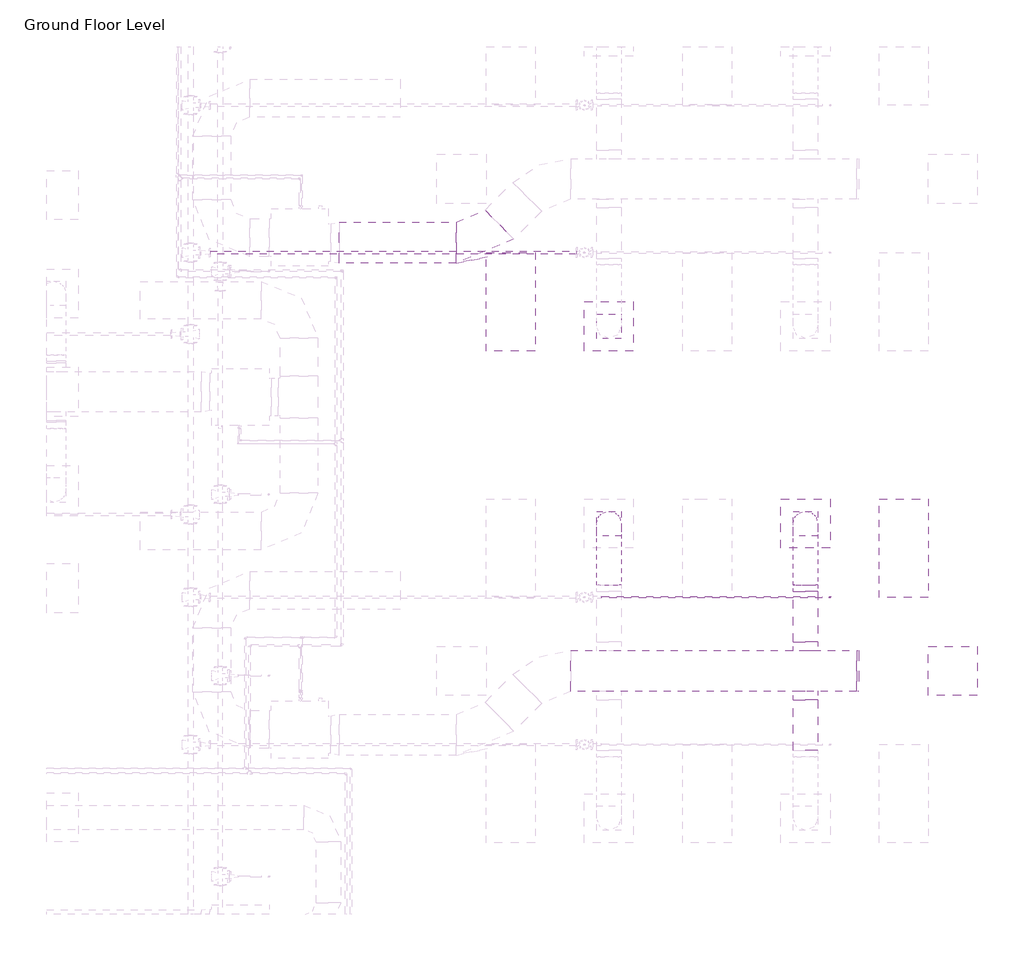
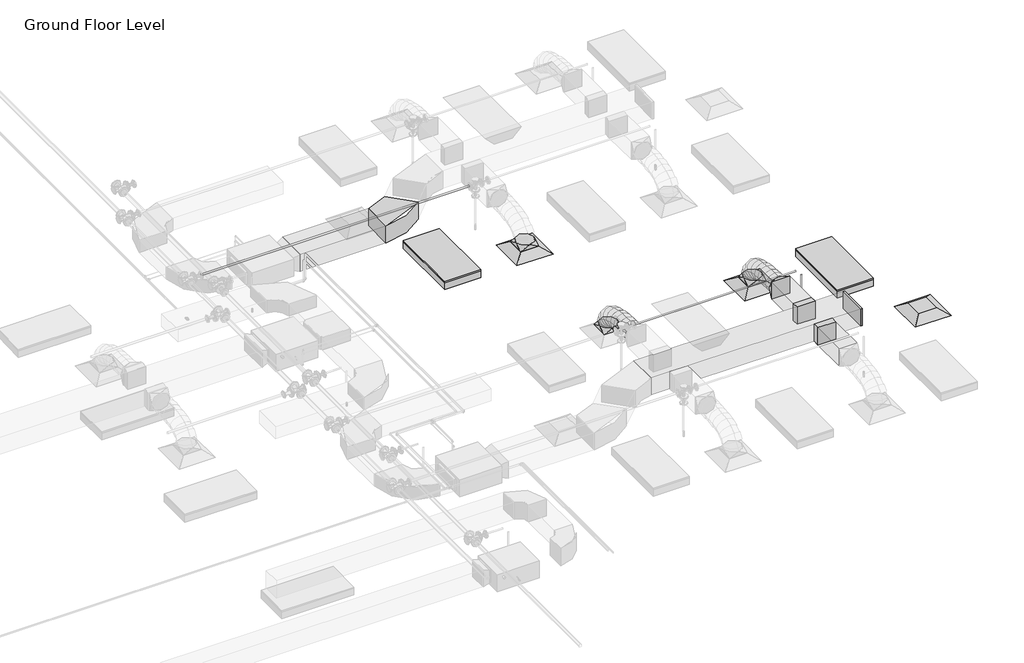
# One storey, part 63 of 73: 8 duct fittings, 6 duct segments, 3 air terminals, 3 pipe segments, 2 light fixtures, 1 fire suppression terminal.
"""IFC4 building model written with IfcOpenShell, lengths in millimetres."""

from ifc_helpers import new_model, si_unit, point, frame, frame_2d, origin, place, context, project, spatial, polyline, circle_curve, ellipse_curve, trimmed, segment, composite_curve, outline, extrude, transform, mapped, element, save
from ifc_brep_helpers import plane_surface, cylinder_surface, advanced_brep
from components import m_return_diffuser_600_x_600_face_300_x_300_connection_ff221211, m_rectangular_elbow_radius_1_5_w_acc56c25, m_rectangular_endcap_standard_72d4d00d, m_rectangular_takeoff_standard_cb0ccb98, m_rectangular_takeoff_standard_2be5eba1, m_rectangular_to_round_transition_angle_45_degree_641efff0, m_sprinkler_dry_pendent_hosted_15_mm_dry_pendent_9bda8e11, m_troffer_light_parabolic_rectangular1_0600x1200mm_4_lamp_86473d4a

model = new_model("IFC4")

# Units and contexts
model_context = context("Model", 3, world=origin())
ifc_project = project(units=[si_unit("LENGTHUNIT", "METRE", prefix="MILLI")], contexts=[model_context])

# Site, building, storey
site = spatial("IfcSite", under=ifc_project)
building = spatial("IfcBuilding", under=site)
storey = spatial("IfcBuildingStorey", under=building, Name="Ground Floor Level", Elevation=900.0)

# Air terminals
placement = place(None, origin())
m_return_diffuser_600_x_600_face_300_x_300_connection_shape = m_return_diffuser_600_x_600_face_300_x_300_connection_ff221211(model_context)
element("IfcAirTerminal", 1, ObjectType="M_Return Diffuser : 600 x 600 Face 300 x 300 Connection", at=placement, inside=storey, context=model_context, shape_type="MappedRepresentation", body=[
    mapped(m_return_diffuser_600_x_600_face_300_x_300_connection_shape, transform((14942.7672395, 725.2153534, 3650.0), x_axis=(1.0, 0.0, 0.0), y_axis=(0.0, 1.0, 0.0), z_axis=(0.0, 0.0, 1.0))),
])
element("IfcAirTerminal", 2, ObjectType="M_Supply Diffuser : 600 x 600 Face 300 x 300 Connection", at=placement, inside=storey, context=model_context, shape_type="MappedRepresentation", body=[
    mapped(m_return_diffuser_600_x_600_face_300_x_300_connection_shape, transform((10742.7672395, 4935.2153534, 3650.0), x_axis=(1.0, 0.0, 0.0), y_axis=(0.0, 1.0, 0.0), z_axis=(0.0, 0.0, 1.0))),
])
element("IfcAirTerminal", 3, ObjectType="M_Supply Diffuser : 600 x 600 Face 300 x 300 Connection", at=placement, inside=storey, context=model_context, shape_type="MappedRepresentation", body=[
    mapped(m_return_diffuser_600_x_600_face_300_x_300_connection_shape, transform((13142.7672395, 2525.2153534, 3650.0), x_axis=(1.0, 0.0, 0.0), y_axis=(0.0, 1.0, 0.0), z_axis=(0.0, 0.0, 1.0))),
])

# Duct fittings
m_rectangular_elbow_radius_1_5_w_shape = m_rectangular_elbow_radius_1_5_w_acc56c25(model_context)
element("IfcDuctFitting", 4, ObjectType="M_Rectangular Elbow - Radius : 1.5 W", at=placement, inside=storey, context=model_context, shape_type="MappedRepresentation", body=[
    mapped(m_rectangular_elbow_radius_1_5_w_shape, transform((9187.6927358, 5956.1779527, 4100.0047224), x_axis=(0.9999999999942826, 0.0, -3.3815582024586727e-06), y_axis=(-9.063610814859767e-12, 0.9999999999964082, -2.680306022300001e-06), z_axis=(3.3815582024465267e-06, 2.6803060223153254e-06, 0.9999999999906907))),
])
m_rectangular_endcap_standard_shape = m_rectangular_endcap_standard_72d4d00d(model_context)
element("IfcDuctFitting", 5, ObjectType="M_Rectangular Endcap : Standard", at=placement, inside=storey, context=model_context, shape_type="MappedRepresentation", body=[
    mapped(m_rectangular_endcap_standard_shape, transform((13766.7301365, 725.2153534, 4100.0), x_axis=(1.0, 0.0, 0.0), y_axis=(0.0, 1.0, 0.0), z_axis=(0.0, 0.0, 1.0))),
])
m_rectangular_takeoff_standard_shape = m_rectangular_takeoff_standard_cb0ccb98(model_context)
element("IfcDuctFitting", 6, ObjectType="M_Rectangular Takeoff : Standard", at=placement, inside=storey, context=model_context, shape_type="MappedRepresentation", body=[
    mapped(m_rectangular_takeoff_standard_shape, transform((13142.7672395, 975.2153534, 4100.0), x_axis=(0.0, 1.0, 0.0), y_axis=(1.0, 0.0, 0.0), z_axis=(0.0, 0.0, -1.0))),
])
m_rectangular_takeoff_standard_2_shape = m_rectangular_takeoff_standard_2be5eba1(model_context)
element("IfcDuctFitting", 7, ObjectType="M_Rectangular Takeoff : Standard", at=placement, inside=storey, context=model_context, shape_type="MappedRepresentation", body=[
    mapped(m_rectangular_takeoff_standard_2_shape, transform((13142.7672395, 475.2153534, 4100.0), x_axis=(0.0, -1.0, 0.0), y_axis=(-1.0, 0.0, 0.0), z_axis=(0.0, 0.0, -1.0))),
])
m_rectangular_to_round_transition_angle_45_degree_shape = m_rectangular_to_round_transition_angle_45_degree_641efff0(model_context)
element("IfcDuctFitting", 8, ObjectType="M_Rectangular to Round Transition - Angle : 45 Degree", at=placement, inside=storey, context=model_context, shape_type="MappedRepresentation", body=[
    mapped(m_rectangular_to_round_transition_angle_45_degree_shape, transform((10742.7672395, 2525.2153534, 3751.6), x_axis=(0.0, 0.0, 1.0), y_axis=(-1.0, 0.0, 0.0), z_axis=(0.0, -1.0, 0.0))),
])
element("IfcDuctFitting", 9, ObjectType="M_Rectangular to Round Transition - Angle : 45 Degree", at=placement, inside=storey, context=model_context, shape_type="MappedRepresentation", body=[
    mapped(m_rectangular_to_round_transition_angle_45_degree_shape, transform((13142.7672395, 2525.2153534, 3751.6), x_axis=(0.0, 0.0, 1.0), y_axis=(-1.0, 0.0, 0.0), z_axis=(0.0, -1.0, 0.0))),
])
element("IfcDuctFitting", 10, ObjectType="M_Rectangular to Round Transition - Angle : 45 Degree", at=placement, inside=storey, context=model_context, shape_type="MappedRepresentation", body=[
    mapped(m_rectangular_to_round_transition_angle_45_degree_shape, transform((13142.7672395, 1697.8794221, 4100.0), x_axis=(0.0, 1.0, 0.0), y_axis=(-1.0, 0.0, 0.0), z_axis=(0.0, 0.0, 1.0))),
])
element("IfcDuctFitting", 11, ObjectType="M_Rectangular to Round Transition - Angle : 45 Degree", at=placement, inside=storey, context=model_context, shape_type="MappedRepresentation", body=[
    mapped(m_rectangular_to_round_transition_angle_45_degree_shape, transform((10742.7672395, 4935.2153534, 3751.6), x_axis=(0.0, 0.0, 1.0), y_axis=(-1.0, 0.0, 0.0), z_axis=(0.0, -1.0, 0.0))),
])

# Duct segments
element("IfcDuctSegment", 12, ObjectType="Flex - Round", at=placement, inside=storey, context=model_context, shape_type="AdvancedBrep", body=[
    advanced_brep(
    [(10892.7672395, 2525.2153534, 3826.6), (10742.7672395, 2375.2153534, 3826.6), (10592.7672395, 2525.2153534, 3826.6), (10742.7672395, 2675.2153534, 3826.6), (10892.7672395, 2525.2153534, 3857.9377114), (10742.7672395, 2375.2153534, 3832.2944892), (10592.7672395, 2525.2153534, 3857.9377114), (10742.7672395, 2675.2153534, 3883.5809337), (10892.7672395, 2508.1994208, 3906.2505728), (10742.7672395, 2374.4614419, 3834.435049), (10592.7672395, 2508.1994208, 3906.2505728), (10742.7672395, 2641.9373998, 3978.0660967), (10892.7672395, 2461.0155405, 3968.7113131), (10742.7672395, 2356.8096412, 3857.8020236), (10592.7672395, 2461.0155405, 3968.7113131), (10742.7672395, 2565.2214397, 4079.6206026), (10892.7672395, 2389.4595883, 4016.0700639), (10742.7672395, 2320.5255327, 3881.8163788), (10592.7672395, 2389.4595883, 4016.0700639), (10742.7672395, 2458.3936439, 4150.3237489), (10892.7672395, 2299.3274403, 4050.4146682), (10742.7672395, 2255.7666771, 3906.4925606), (10592.7672395, 2299.3274403, 4050.4146682), (10742.7672395, 2342.8882035, 4194.3367758), (10892.7672395, 2196.4149725, 4073.8329691), (10742.7672395, 2169.8540485, 3926.0424542), (10592.7672395, 2196.4149725, 4073.8329691), (10742.7672395, 2222.9758965, 4221.6234841), (10892.7672395, 2086.5180607, 4088.4128097), (10742.7672395, 2071.3671584, 3939.1085462), (10592.7672395, 2086.5180607, 4088.4128097), (10742.7672395, 2101.6689631, 4237.7170733), (10892.7672395, 1975.4325811, 4096.242033), (10742.7672395, 1967.9272529, 3946.398915), (10592.7672395, 1975.4325811, 4096.242033), (10742.7672395, 1982.9379093, 4246.085151), (10892.7672395, 1868.9544096, 4099.4084821), (10742.7672395, 1866.2629165, 3949.4222102), (10592.7672395, 1868.9544096, 4099.4084821), (10742.7672395, 1871.6459027, 4249.394754), (10892.7672395, 1772.8794221, 4100.0), (10742.7672395, 1773.8029299, 4249.9971571), (10592.7672395, 1772.8794221, 4100.0), (10742.7672395, 1771.9559143, 3950.0028429)],
    [
        (0, 1, circle_curve(frame((10742.7672395, 2525.2153534, 3826.6), z_axis=(0.0, 0.0, -1.0), x_axis=(1.0, 0.0, 0.0)), 150.0)),
        (1, 2, circle_curve(frame((10742.7672395, 2525.2153534, 3826.6), z_axis=(0.0, 0.0, -1.0), x_axis=(1.0, 0.0, 0.0)), 150.0)),
        (2, 3, circle_curve(frame((10742.7672395, 2525.2153534, 3826.6), z_axis=(0.0, 0.0, -1.0), x_axis=(1.0, 0.0, 0.0)), 150.0)),
        (3, 0, circle_curve(frame((10742.7672395, 2525.2153534, 3826.6), z_axis=(0.0, 0.0, -1.0), x_axis=(1.0, 0.0, 0.0)), 150.0)),
        (0, 4),
        (4, 5, ellipse_curve(frame((10742.7672395, 2525.2153534, 3857.9377114), z_axis=(0.0, 0.16851014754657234, -0.9856999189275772), x_axis=(0.0, -0.9856999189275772, -0.1685101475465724)), 152.176131, 150.0)),
        (5, 1),
        (5, 6, ellipse_curve(frame((10742.7672395, 2525.2153534, 3857.9377114), z_axis=(0.0, 0.16851014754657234, -0.9856999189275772), x_axis=(0.0, -0.9856999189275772, -0.1685101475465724)), 152.176131, 150.0)),
        (6, 2),
        (6, 7, ellipse_curve(frame((10742.7672395, 2525.2153534, 3857.9377114), z_axis=(0.0, 0.16851014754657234, -0.9856999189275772), x_axis=(0.0, -0.9856999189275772, -0.1685101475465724)), 152.176131, 150.0)),
        (7, 3),
        (7, 4, ellipse_curve(frame((10742.7672395, 2525.2153534, 3857.9377114), z_axis=(0.0, 0.16851014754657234, -0.9856999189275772), x_axis=(0.0, -0.9856999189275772, -0.1685101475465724)), 152.176131, 150.0)),
        (4, 8),
        (8, 9, ellipse_curve(frame((10742.7672395, 2508.1994208, 3906.2505728), z_axis=(0.0, 0.47309225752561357, -0.8810128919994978), x_axis=(0.0, -0.8810128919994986, -0.47309225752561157)), 151.8002519, 150.0)),
        (9, 5),
        (9, 10, ellipse_curve(frame((10742.7672395, 2508.1994208, 3906.2505728), z_axis=(0.0, 0.47309225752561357, -0.8810128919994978), x_axis=(0.0, -0.8810128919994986, -0.47309225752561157)), 151.8002519, 150.0)),
        (10, 6),
        (10, 11, ellipse_curve(frame((10742.7672395, 2508.1994208, 3906.2505728), z_axis=(0.0, 0.47309225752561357, -0.8810128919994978), x_axis=(0.0, -0.8810128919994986, -0.47309225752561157)), 151.8002519, 150.0)),
        (11, 7),
        (11, 8, ellipse_curve(frame((10742.7672395, 2508.1994208, 3906.2505728), z_axis=(0.0, 0.47309225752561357, -0.8810128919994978), x_axis=(0.0, -0.8810128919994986, -0.47309225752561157)), 151.8002519, 150.0)),
        (8, 12),
        (12, 13, ellipse_curve(frame((10742.7672395, 2461.0155405, 3968.7113131), z_axis=(0.0, 0.7287877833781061, -0.6847396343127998), x_axis=(0.0, -0.6847396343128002, -0.7287877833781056)), 152.1832446, 150.0)),
        (13, 9),
        (13, 14, ellipse_curve(frame((10742.7672395, 2461.0155405, 3968.7113131), z_axis=(0.0, 0.7287877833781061, -0.6847396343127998), x_axis=(0.0, -0.6847396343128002, -0.7287877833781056)), 152.1832446, 150.0)),
        (14, 10),
        (14, 15, ellipse_curve(frame((10742.7672395, 2461.0155405, 3968.7113131), z_axis=(0.0, 0.7287877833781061, -0.6847396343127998), x_axis=(0.0, -0.6847396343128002, -0.7287877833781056)), 152.1832446, 150.0)),
        (15, 11),
        (15, 12, ellipse_curve(frame((10742.7672395, 2461.0155405, 3968.7113131), z_axis=(0.0, 0.7287877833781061, -0.6847396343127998), x_axis=(0.0, -0.6847396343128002, -0.7287877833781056)), 152.1832446, 150.0)),
        (12, 16),
        (16, 17, ellipse_curve(frame((10742.7672395, 2389.4595883, 4016.0700639), z_axis=(0.0, 0.8895859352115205, -0.45676784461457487), x_axis=(0.0, -0.4567678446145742, -0.8895859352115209)), 150.91705, 150.0)),
        (17, 13),
        (17, 18, ellipse_curve(frame((10742.7672395, 2389.4595883, 4016.0700639), z_axis=(0.0, 0.8895859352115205, -0.45676784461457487), x_axis=(0.0, -0.4567678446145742, -0.8895859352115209)), 150.91705, 150.0)),
        (18, 14),
        (18, 19, ellipse_curve(frame((10742.7672395, 2389.4595883, 4016.0700639), z_axis=(0.0, 0.8895859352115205, -0.45676784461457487), x_axis=(0.0, -0.4567678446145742, -0.8895859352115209)), 150.91705, 150.0)),
        (19, 15),
        (19, 16, ellipse_curve(frame((10742.7672395, 2389.4595883, 4016.0700639), z_axis=(0.0, 0.8895859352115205, -0.45676784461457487), x_axis=(0.0, -0.4567678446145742, -0.8895859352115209)), 150.91705, 150.0)),
        (16, 20),
        (20, 21, ellipse_curve(frame((10742.7672395, 2299.3274403, 4050.4146682), z_axis=(0.0, 0.9571203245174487, -0.2896906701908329), x_axis=(0.0, -0.28969067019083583, -0.9571203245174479)), 150.369921, 150.0)),
        (21, 17),
        (21, 22, ellipse_curve(frame((10742.7672395, 2299.3274403, 4050.4146682), z_axis=(0.0, 0.9571203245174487, -0.2896906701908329), x_axis=(0.0, -0.28969067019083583, -0.9571203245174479)), 150.369921, 150.0)),
        (22, 18),
        (22, 23, ellipse_curve(frame((10742.7672395, 2299.3274403, 4050.4146682), z_axis=(0.0, 0.9571203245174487, -0.2896906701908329), x_axis=(0.0, -0.28969067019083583, -0.9571203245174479)), 150.369921, 150.0)),
        (23, 19),
        (23, 20, ellipse_curve(frame((10742.7672395, 2299.3274403, 4050.4146682), z_axis=(0.0, 0.9571203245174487, -0.2896906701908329), x_axis=(0.0, -0.28969067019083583, -0.9571203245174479)), 150.369921, 150.0)),
        (20, 24),
        (24, 25, ellipse_curve(frame((10742.7672395, 2196.4149725, 4073.8329691), z_axis=(0.0, 0.9842313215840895, -0.1768861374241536), x_axis=(0.0, -0.1768861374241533, -0.9842313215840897)), 150.1583131, 150.0)),
        (25, 21),
        (25, 26, ellipse_curve(frame((10742.7672395, 2196.4149725, 4073.8329691), z_axis=(0.0, 0.9842313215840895, -0.1768861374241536), x_axis=(0.0, -0.1768861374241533, -0.9842313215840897)), 150.1583131, 150.0)),
        (26, 22),
        (26, 27, ellipse_curve(frame((10742.7672395, 2196.4149725, 4073.8329691), z_axis=(0.0, 0.9842313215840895, -0.1768861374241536), x_axis=(0.0, -0.1768861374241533, -0.9842313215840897)), 150.1583131, 150.0)),
        (27, 23),
        (27, 24, ellipse_curve(frame((10742.7672395, 2196.4149725, 4073.8329691), z_axis=(0.0, 0.9842313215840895, -0.1768861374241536), x_axis=(0.0, -0.1768861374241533, -0.9842313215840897)), 150.1583131, 150.0)),
        (24, 28),
        (28, 29, ellipse_curve(frame((10742.7672395, 2086.5180607, 4088.4128097), z_axis=(0.0, 0.9948906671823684, -0.10095821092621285), x_axis=(0.0, -0.10095821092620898, -0.9948906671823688)), 150.0710264, 150.0)),
        (29, 25),
        (29, 30, ellipse_curve(frame((10742.7672395, 2086.5180607, 4088.4128097), z_axis=(0.0, 0.9948906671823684, -0.10095821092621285), x_axis=(0.0, -0.10095821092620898, -0.9948906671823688)), 150.0710264, 150.0)),
        (30, 26),
        (30, 31, ellipse_curve(frame((10742.7672395, 2086.5180607, 4088.4128097), z_axis=(0.0, 0.9948906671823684, -0.10095821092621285), x_axis=(0.0, -0.10095821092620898, -0.9948906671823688)), 150.0710264, 150.0)),
        (31, 27),
        (31, 28, ellipse_curve(frame((10742.7672395, 2086.5180607, 4088.4128097), z_axis=(0.0, 0.9948906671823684, -0.10095821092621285), x_axis=(0.0, -0.10095821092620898, -0.9948906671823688)), 150.0710264, 150.0)),
        (28, 32),
        (32, 33, ellipse_curve(frame((10742.7672395, 1975.4325811, 4096.242033), z_axis=(0.0, 0.9987479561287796, -0.050025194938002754), x_axis=(0.0, -0.05002519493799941, -0.99874795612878)), 150.0309634, 150.0)),
        (33, 29),
        (33, 34, ellipse_curve(frame((10742.7672395, 1975.4325811, 4096.242033), z_axis=(0.0, 0.9987479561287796, -0.050025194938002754), x_axis=(0.0, -0.05002519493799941, -0.99874795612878)), 150.0309634, 150.0)),
        (34, 30),
        (34, 35, ellipse_curve(frame((10742.7672395, 1975.4325811, 4096.242033), z_axis=(0.0, 0.9987479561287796, -0.050025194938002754), x_axis=(0.0, -0.05002519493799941, -0.99874795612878)), 150.0309634, 150.0)),
        (35, 31),
        (35, 32, ellipse_curve(frame((10742.7672395, 1975.4325811, 4096.242033), z_axis=(0.0, 0.9987479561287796, -0.050025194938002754), x_axis=(0.0, -0.05002519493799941, -0.99874795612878)), 150.0309634, 150.0)),
        (32, 36),
        (36, 37, ellipse_curve(frame((10742.7672395, 1868.9544096, 4099.4084821), z_axis=(0.0, 0.9998390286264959, -0.01794204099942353), x_axis=(0.0, -0.017942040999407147, -0.9998390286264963)), 150.0104193, 150.0)),
        (37, 33),
        (37, 38, ellipse_curve(frame((10742.7672395, 1868.9544096, 4099.4084821), z_axis=(0.0, 0.9998390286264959, -0.01794204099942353), x_axis=(0.0, -0.017942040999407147, -0.9998390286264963)), 150.0104193, 150.0)),
        (38, 34),
        (38, 39, ellipse_curve(frame((10742.7672395, 1868.9544096, 4099.4084821), z_axis=(0.0, 0.9998390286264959, -0.01794204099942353), x_axis=(0.0, -0.017942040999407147, -0.9998390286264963)), 150.0104193, 150.0)),
        (39, 35),
        (39, 36, ellipse_curve(frame((10742.7672395, 1868.9544096, 4099.4084821), z_axis=(0.0, 0.9998390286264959, -0.01794204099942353), x_axis=(0.0, -0.017942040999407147, -0.9998390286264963)), 150.0104193, 150.0)),
        (40, 41, circle_curve(frame((10742.7672395, 1772.8794221, 4100.0), z_axis=(0.0, -0.9999810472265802, 0.006156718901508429), x_axis=(1.0, 0.0, 0.0)), 150.0)),
        (41, 42, circle_curve(frame((10742.7672395, 1772.8794221, 4100.0), z_axis=(0.0, -0.9999810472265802, 0.006156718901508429), x_axis=(1.0, 0.0, 0.0)), 150.0)),
        (42, 43, circle_curve(frame((10742.7672395, 1772.8794221, 4100.0), z_axis=(0.0, -0.9999810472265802, 0.006156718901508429), x_axis=(1.0, 0.0, 0.0)), 150.0)),
        (43, 40, circle_curve(frame((10742.7672395, 1772.8794221, 4100.0), z_axis=(0.0, -0.9999810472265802, 0.006156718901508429), x_axis=(1.0, 0.0, 0.0)), 150.0)),
        (36, 40),
        (43, 37),
        (42, 38),
        (41, 39),
    ],
    [
        plane_surface(frame((10742.7672395, 2375.2153534, 3826.6), z_axis=(0.0, 0.0, -1.0), x_axis=(1.0, 0.0, 0.0))),
        cylinder_surface(frame((10742.7672395, 2525.2153534, 3826.6), z_axis=(0.0, 0.0, -1.0), x_axis=(1.0, 0.0, 0.0)), 150.0),
        cylinder_surface(frame((10742.7672395, 2525.2153534, 3857.9377114), z_axis=(0.0, 0.3322008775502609, -0.9432086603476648), x_axis=(1.0, 0.0, 0.0)), 150.0),
        cylinder_surface(frame((10742.7672395, 2508.1994208, 3906.2505728), z_axis=(0.0, 0.6027625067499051, -0.7979206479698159), x_axis=(1.0, 0.0, 0.0)), 150.0),
        cylinder_surface(frame((10742.7672395, 2461.0155405, 3968.7113131), z_axis=(0.0, 0.8339024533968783, -0.5519118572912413), x_axis=(1.0, 0.0, 0.0)), 150.0),
        cylinder_surface(frame((10742.7672395, 2389.4595883, 4016.0700639), z_axis=(0.0, 0.9344582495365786, -0.35607271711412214), x_axis=(1.0, 0.0, 0.0)), 150.0),
        cylinder_surface(frame((10742.7672395, 2299.3274403, 4050.4146682), z_axis=(0.0, 0.9750732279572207, -0.22188330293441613), x_axis=(1.0, 0.0, 0.0)), 150.0),
        cylinder_surface(frame((10742.7672395, 2196.4149725, 4073.8329691), z_axis=(0.0, 0.9913140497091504, -0.13151598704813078), x_axis=(1.0, 0.0, 0.0)), 150.0),
        cylinder_surface(frame((10742.7672395, 2086.5180607, 4088.4128097), z_axis=(0.0, 0.9975255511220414, -0.07030487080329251), x_axis=(1.0, 0.0, 0.0)), 150.0),
        cylinder_surface(frame((10742.7672395, 1975.4325811, 4096.242033), z_axis=(0.0, 0.9995581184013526, -0.029724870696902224), x_axis=(1.0, 0.0, 0.0)), 150.0),
        plane_surface(frame((10742.7672395, 1771.9559143, 3950.0028429), z_axis=(0.0, -0.9999810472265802, 0.006156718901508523), x_axis=(1.0, 0.0, 0.0))),
        cylinder_surface(frame((10742.7672395, 1868.9544096, 4099.4084821), z_axis=(0.0, 0.9999810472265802, -0.006156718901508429), x_axis=(1.0, 0.0, 0.0)), 150.0),
    ],
    [
        (0, [[1, 2, 3, 4]]),
        (1, [[-1, 5, 6, 7]]),
        (1, [[-2, -7, 8, 9]]),
        (1, [[-3, -9, 10, 11]]),
        (1, [[-4, -11, 12, -5]]),
        (2, [[-6, 13, 14, 15]]),
        (2, [[-8, -15, 16, 17]]),
        (2, [[-10, -17, 18, 19]]),
        (2, [[-12, -19, 20, -13]]),
        (3, [[-14, 21, 22, 23]]),
        (3, [[-16, -23, 24, 25]]),
        (3, [[-18, -25, 26, 27]]),
        (3, [[-20, -27, 28, -21]]),
        (4, [[-22, 29, 30, 31]]),
        (4, [[-24, -31, 32, 33]]),
        (4, [[-26, -33, 34, 35]]),
        (4, [[-28, -35, 36, -29]]),
        (5, [[-30, 37, 38, 39]]),
        (5, [[-32, -39, 40, 41]]),
        (5, [[-34, -41, 42, 43]]),
        (5, [[-36, -43, 44, -37]]),
        (6, [[-38, 45, 46, 47]]),
        (6, [[-40, -47, 48, 49]]),
        (6, [[-42, -49, 50, 51]]),
        (6, [[-44, -51, 52, -45]]),
        (7, [[-46, 53, 54, 55]]),
        (7, [[-48, -55, 56, 57]]),
        (7, [[-50, -57, 58, 59]]),
        (7, [[-52, -59, 60, -53]]),
        (8, [[-54, 61, 62, 63]]),
        (8, [[-56, -63, 64, 65]]),
        (8, [[-58, -65, 66, 67]]),
        (8, [[-60, -67, 68, -61]]),
        (9, [[-62, 69, 70, 71]]),
        (9, [[-64, -71, 72, 73]]),
        (9, [[-66, -73, 74, 75]]),
        (9, [[-68, -75, 76, -69]]),
        (10, [[77, 78, 79, 80]]),
        (11, [[-70, 81, -80, 82]]),
        (11, [[-72, -82, -79, 83]]),
        (11, [[-74, -83, -78, 84]]),
        (11, [[-76, -84, -77, -81]]),
    ],
),
])
element("IfcDuctSegment", 13, ObjectType="Flex - Round", at=placement, inside=storey, context=model_context, shape_type="AdvancedBrep", body=[
    advanced_brep(
    [(13292.7672395, 2525.2153534, 3826.6), (13142.7672395, 2375.2153534, 3826.6), (12992.7672395, 2525.2153534, 3826.6), (13142.7672395, 2675.2153534, 3826.6), (13292.7672395, 2525.2153534, 3857.9377114), (13142.7672395, 2375.2153534, 3832.2944892), (12992.7672395, 2525.2153534, 3857.9377114), (13142.7672395, 2675.2153534, 3883.5809337), (13292.7672395, 2508.1994208, 3906.2505728), (13142.7672395, 2374.4614419, 3834.435049), (12992.7672395, 2508.1994208, 3906.2505728), (13142.7672395, 2641.9373998, 3978.0660967), (13292.7672395, 2461.0155405, 3968.7113131), (13142.7672395, 2356.8096412, 3857.8020236), (12992.7672395, 2461.0155405, 3968.7113131), (13142.7672395, 2565.2214397, 4079.6206026), (13292.7672395, 2389.4595883, 4016.0700639), (13142.7672395, 2320.5255327, 3881.8163788), (12992.7672395, 2389.4595883, 4016.0700639), (13142.7672395, 2458.3936439, 4150.3237489), (13292.7672395, 2299.3274403, 4050.4146682), (13142.7672395, 2255.7666771, 3906.4925606), (12992.7672395, 2299.3274403, 4050.4146682), (13142.7672395, 2342.8882035, 4194.3367758), (13292.7672395, 2196.4149725, 4073.8329691), (13142.7672395, 2169.8540485, 3926.0424542), (12992.7672395, 2196.4149725, 4073.8329691), (13142.7672395, 2222.9758965, 4221.6234841), (13292.7672395, 2086.5180607, 4088.4128097), (13142.7672395, 2071.3671584, 3939.1085462), (12992.7672395, 2086.5180607, 4088.4128097), (13142.7672395, 2101.6689631, 4237.7170733), (13292.7672395, 1975.4325811, 4096.242033), (13142.7672395, 1967.9272529, 3946.398915), (12992.7672395, 1975.4325811, 4096.242033), (13142.7672395, 1982.9379093, 4246.085151), (13292.7672395, 1868.9544096, 4099.4084821), (13142.7672395, 1866.2629165, 3949.4222102), (12992.7672395, 1868.9544096, 4099.4084821), (13142.7672395, 1871.6459027, 4249.394754), (13292.7672395, 1772.8794221, 4100.0), (13142.7672395, 1773.8029299, 4249.9971571), (12992.7672395, 1772.8794221, 4100.0), (13142.7672395, 1771.9559143, 3950.0028429)],
    [
        (0, 1, circle_curve(frame((13142.7672395, 2525.2153534, 3826.6), z_axis=(0.0, 0.0, -1.0), x_axis=(1.0, 0.0, 0.0)), 150.0)),
        (1, 2, circle_curve(frame((13142.7672395, 2525.2153534, 3826.6), z_axis=(0.0, 0.0, -1.0), x_axis=(1.0, 0.0, 0.0)), 150.0)),
        (2, 3, circle_curve(frame((13142.7672395, 2525.2153534, 3826.6), z_axis=(0.0, 0.0, -1.0), x_axis=(1.0, 0.0, 0.0)), 150.0)),
        (3, 0, circle_curve(frame((13142.7672395, 2525.2153534, 3826.6), z_axis=(0.0, 0.0, -1.0), x_axis=(1.0, 0.0, 0.0)), 150.0)),
        (0, 4),
        (4, 5, ellipse_curve(frame((13142.7672395, 2525.2153534, 3857.9377114), z_axis=(0.0, 0.16851014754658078, -0.9856999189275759), x_axis=(0.0, -0.9856999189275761, -0.1685101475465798)), 152.176131, 150.0)),
        (5, 1),
        (5, 6, ellipse_curve(frame((13142.7672395, 2525.2153534, 3857.9377114), z_axis=(0.0, 0.16851014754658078, -0.9856999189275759), x_axis=(0.0, -0.9856999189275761, -0.1685101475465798)), 152.176131, 150.0)),
        (6, 2),
        (6, 7, ellipse_curve(frame((13142.7672395, 2525.2153534, 3857.9377114), z_axis=(0.0, 0.16851014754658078, -0.9856999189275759), x_axis=(0.0, -0.9856999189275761, -0.1685101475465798)), 152.176131, 150.0)),
        (7, 3),
        (7, 4, ellipse_curve(frame((13142.7672395, 2525.2153534, 3857.9377114), z_axis=(0.0, 0.16851014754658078, -0.9856999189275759), x_axis=(0.0, -0.9856999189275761, -0.1685101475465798)), 152.176131, 150.0)),
        (4, 8),
        (8, 9, ellipse_curve(frame((13142.7672395, 2508.1994208, 3906.2505728), z_axis=(0.0, 0.47309225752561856, -0.8810128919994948), x_axis=(0.0, -0.8810128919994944, -0.47309225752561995)), 151.8002519, 150.0)),
        (9, 5),
        (9, 10, ellipse_curve(frame((13142.7672395, 2508.1994208, 3906.2505728), z_axis=(0.0, 0.47309225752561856, -0.8810128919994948), x_axis=(0.0, -0.8810128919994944, -0.47309225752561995)), 151.8002519, 150.0)),
        (10, 6),
        (10, 11, ellipse_curve(frame((13142.7672395, 2508.1994208, 3906.2505728), z_axis=(0.0, 0.47309225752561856, -0.8810128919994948), x_axis=(0.0, -0.8810128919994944, -0.47309225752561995)), 151.8002519, 150.0)),
        (11, 7),
        (11, 8, ellipse_curve(frame((13142.7672395, 2508.1994208, 3906.2505728), z_axis=(0.0, 0.47309225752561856, -0.8810128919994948), x_axis=(0.0, -0.8810128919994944, -0.47309225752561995)), 151.8002519, 150.0)),
        (8, 12),
        (12, 13, ellipse_curve(frame((13142.7672395, 2461.0155405, 3968.7113131), z_axis=(0.0, 0.7287877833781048, -0.6847396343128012), x_axis=(0.0, -0.6847396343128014, -0.7287877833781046)), 152.1832446, 150.0)),
        (13, 9),
        (13, 14, ellipse_curve(frame((13142.7672395, 2461.0155405, 3968.7113131), z_axis=(0.0, 0.7287877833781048, -0.6847396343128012), x_axis=(0.0, -0.6847396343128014, -0.7287877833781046)), 152.1832446, 150.0)),
        (14, 10),
        (14, 15, ellipse_curve(frame((13142.7672395, 2461.0155405, 3968.7113131), z_axis=(0.0, 0.7287877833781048, -0.6847396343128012), x_axis=(0.0, -0.6847396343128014, -0.7287877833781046)), 152.1832446, 150.0)),
        (15, 11),
        (15, 12, ellipse_curve(frame((13142.7672395, 2461.0155405, 3968.7113131), z_axis=(0.0, 0.7287877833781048, -0.6847396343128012), x_axis=(0.0, -0.6847396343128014, -0.7287877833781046)), 152.1832446, 150.0)),
        (12, 16),
        (16, 17, ellipse_curve(frame((13142.7672395, 2389.4595883, 4016.0700639), z_axis=(0.0, 0.8895859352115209, -0.45676784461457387), x_axis=(0.0, -0.45676784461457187, -0.8895859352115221)), 150.91705, 150.0)),
        (17, 13),
        (17, 18, ellipse_curve(frame((13142.7672395, 2389.4595883, 4016.0700639), z_axis=(0.0, 0.8895859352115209, -0.45676784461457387), x_axis=(0.0, -0.45676784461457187, -0.8895859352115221)), 150.91705, 150.0)),
        (18, 14),
        (18, 19, ellipse_curve(frame((13142.7672395, 2389.4595883, 4016.0700639), z_axis=(0.0, 0.8895859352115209, -0.45676784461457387), x_axis=(0.0, -0.45676784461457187, -0.8895859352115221)), 150.91705, 150.0)),
        (19, 15),
        (19, 16, ellipse_curve(frame((13142.7672395, 2389.4595883, 4016.0700639), z_axis=(0.0, 0.8895859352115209, -0.45676784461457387), x_axis=(0.0, -0.45676784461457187, -0.8895859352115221)), 150.91705, 150.0)),
        (16, 20),
        (20, 21, ellipse_curve(frame((13142.7672395, 2299.3274403, 4050.4146682), z_axis=(0.0, 0.9571203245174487, -0.28969067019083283), x_axis=(0.0, -0.28969067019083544, -0.9571203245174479)), 150.369921, 150.0)),
        (21, 17),
        (21, 22, ellipse_curve(frame((13142.7672395, 2299.3274403, 4050.4146682), z_axis=(0.0, 0.9571203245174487, -0.28969067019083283), x_axis=(0.0, -0.28969067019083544, -0.9571203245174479)), 150.369921, 150.0)),
        (22, 18),
        (22, 23, ellipse_curve(frame((13142.7672395, 2299.3274403, 4050.4146682), z_axis=(0.0, 0.9571203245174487, -0.28969067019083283), x_axis=(0.0, -0.28969067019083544, -0.9571203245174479)), 150.369921, 150.0)),
        (23, 19),
        (23, 20, ellipse_curve(frame((13142.7672395, 2299.3274403, 4050.4146682), z_axis=(0.0, 0.9571203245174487, -0.28969067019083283), x_axis=(0.0, -0.28969067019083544, -0.9571203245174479)), 150.369921, 150.0)),
        (20, 24),
        (24, 25, ellipse_curve(frame((13142.7672395, 2196.4149725, 4073.8329691), z_axis=(0.0, 0.9842313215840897, -0.17688613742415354), x_axis=(0.0, -0.17688613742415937, -0.9842313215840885)), 150.1583131, 150.0)),
        (25, 21),
        (25, 26, ellipse_curve(frame((13142.7672395, 2196.4149725, 4073.8329691), z_axis=(0.0, 0.9842313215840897, -0.17688613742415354), x_axis=(0.0, -0.17688613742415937, -0.9842313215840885)), 150.1583131, 150.0)),
        (26, 22),
        (26, 27, ellipse_curve(frame((13142.7672395, 2196.4149725, 4073.8329691), z_axis=(0.0, 0.9842313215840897, -0.17688613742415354), x_axis=(0.0, -0.17688613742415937, -0.9842313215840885)), 150.1583131, 150.0)),
        (27, 23),
        (27, 24, ellipse_curve(frame((13142.7672395, 2196.4149725, 4073.8329691), z_axis=(0.0, 0.9842313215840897, -0.17688613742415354), x_axis=(0.0, -0.17688613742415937, -0.9842313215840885)), 150.1583131, 150.0)),
        (24, 28),
        (28, 29, ellipse_curve(frame((13142.7672395, 2086.5180607, 4088.4128097), z_axis=(0.0, 0.9948906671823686, -0.10095821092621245), x_axis=(0.0, -0.10095821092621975, -0.9948906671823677)), 150.0710264, 150.0)),
        (29, 25),
        (29, 30, ellipse_curve(frame((13142.7672395, 2086.5180607, 4088.4128097), z_axis=(0.0, 0.9948906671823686, -0.10095821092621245), x_axis=(0.0, -0.10095821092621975, -0.9948906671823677)), 150.0710264, 150.0)),
        (30, 26),
        (30, 31, ellipse_curve(frame((13142.7672395, 2086.5180607, 4088.4128097), z_axis=(0.0, 0.9948906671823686, -0.10095821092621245), x_axis=(0.0, -0.10095821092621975, -0.9948906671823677)), 150.0710264, 150.0)),
        (31, 27),
        (31, 28, ellipse_curve(frame((13142.7672395, 2086.5180607, 4088.4128097), z_axis=(0.0, 0.9948906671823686, -0.10095821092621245), x_axis=(0.0, -0.10095821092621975, -0.9948906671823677)), 150.0710264, 150.0)),
        (28, 32),
        (32, 33, ellipse_curve(frame((13142.7672395, 1975.4325811, 4096.242033), z_axis=(0.0, 0.9987479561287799, -0.05002519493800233), x_axis=(0.0, -0.05002519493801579, -0.9987479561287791)), 150.0309634, 150.0)),
        (33, 29),
        (33, 34, ellipse_curve(frame((13142.7672395, 1975.4325811, 4096.242033), z_axis=(0.0, 0.9987479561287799, -0.05002519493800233), x_axis=(0.0, -0.05002519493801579, -0.9987479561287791)), 150.0309634, 150.0)),
        (34, 30),
        (34, 35, ellipse_curve(frame((13142.7672395, 1975.4325811, 4096.242033), z_axis=(0.0, 0.9987479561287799, -0.05002519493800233), x_axis=(0.0, -0.05002519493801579, -0.9987479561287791)), 150.0309634, 150.0)),
        (35, 31),
        (35, 32, ellipse_curve(frame((13142.7672395, 1975.4325811, 4096.242033), z_axis=(0.0, 0.9987479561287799, -0.05002519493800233), x_axis=(0.0, -0.05002519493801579, -0.9987479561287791)), 150.0309634, 150.0)),
        (32, 36),
        (36, 37, ellipse_curve(frame((13142.7672395, 1868.9544096, 4099.4084821), z_axis=(0.0, 0.9998390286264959, -0.0179420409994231), x_axis=(-1.8187895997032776e-12, -0.017942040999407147, -0.9998390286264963)), 150.0104193, 150.0)),
        (37, 33),
        (37, 38, ellipse_curve(frame((13142.7672395, 1868.9544096, 4099.4084821), z_axis=(0.0, 0.9998390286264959, -0.0179420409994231), x_axis=(-1.8187895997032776e-12, -0.017942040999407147, -0.9998390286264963)), 150.0104193, 150.0)),
        (38, 34),
        (38, 39, ellipse_curve(frame((13142.7672395, 1868.9544096, 4099.4084821), z_axis=(0.0, 0.9998390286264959, -0.0179420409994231), x_axis=(-1.8187895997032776e-12, -0.017942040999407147, -0.9998390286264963)), 150.0104193, 150.0)),
        (39, 35),
        (39, 36, ellipse_curve(frame((13142.7672395, 1868.9544096, 4099.4084821), z_axis=(0.0, 0.9998390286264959, -0.0179420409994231), x_axis=(-1.8187895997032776e-12, -0.017942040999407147, -0.9998390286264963)), 150.0104193, 150.0)),
        (40, 41, circle_curve(frame((13142.7672395, 1772.8794221, 4100.0), z_axis=(0.0, -0.9999810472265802, 0.006156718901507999), x_axis=(1.0, 0.0, 0.0)), 150.0)),
        (41, 42, circle_curve(frame((13142.7672395, 1772.8794221, 4100.0), z_axis=(0.0, -0.9999810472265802, 0.006156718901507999), x_axis=(1.0, 0.0, 0.0)), 150.0)),
        (42, 43, circle_curve(frame((13142.7672395, 1772.8794221, 4100.0), z_axis=(0.0, -0.9999810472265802, 0.006156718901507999), x_axis=(1.0, 0.0, 0.0)), 150.0)),
        (43, 40, circle_curve(frame((13142.7672395, 1772.8794221, 4100.0), z_axis=(0.0, -0.9999810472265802, 0.006156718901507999), x_axis=(1.0, 0.0, 0.0)), 150.0)),
        (36, 40),
        (43, 37),
        (42, 38),
        (41, 39),
    ],
    [
        plane_surface(frame((13142.7672395, 2375.2153534, 3826.6), z_axis=(0.0, 0.0, -1.0), x_axis=(1.0, 0.0, 0.0))),
        cylinder_surface(frame((13142.7672395, 2525.2153534, 3826.6), z_axis=(0.0, 0.0, -1.0), x_axis=(1.0, 0.0, 0.0)), 150.0),
        cylinder_surface(frame((13142.7672395, 2525.2153534, 3857.9377114), z_axis=(0.0, 0.332200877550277, -0.9432086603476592), x_axis=(1.0, 0.0, 0.0)), 150.0),
        cylinder_surface(frame((13142.7672395, 2508.1994208, 3906.2505728), z_axis=(0.0, 0.6027625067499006, -0.797920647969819), x_axis=(1.0, 0.0, 0.0)), 150.0),
        cylinder_surface(frame((13142.7672395, 2461.0155405, 3968.7113131), z_axis=(0.0, 0.8339024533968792, -0.5519118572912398), x_axis=(1.0, 0.0, 0.0)), 150.0),
        cylinder_surface(frame((13142.7672395, 2389.4595883, 4016.0700639), z_axis=(0.0, 0.9344582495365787, -0.3560727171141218), x_axis=(1.0, 0.0, 0.0)), 150.0),
        cylinder_surface(frame((13142.7672395, 2299.3274403, 4050.4146682), z_axis=(0.0, 0.9750732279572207, -0.22188330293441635), x_axis=(1.0, 0.0, 0.0)), 150.0),
        cylinder_surface(frame((13142.7672395, 2196.4149725, 4073.8329691), z_axis=(0.0, 0.9913140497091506, -0.1315159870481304), x_axis=(1.0, 0.0, 0.0)), 150.0),
        cylinder_surface(frame((13142.7672395, 2086.5180607, 4088.4128097), z_axis=(0.0, 0.9975255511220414, -0.07030487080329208), x_axis=(1.0, 0.0, 0.0)), 150.0),
        cylinder_surface(frame((13142.7672395, 1975.4325811, 4096.242033), z_axis=(0.0, 0.9995581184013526, -0.029724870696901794), x_axis=(1.0, 0.0, 0.0)), 150.0),
        plane_surface(frame((13142.7672395, 1771.9559143, 3950.0028429), z_axis=(0.0, -0.9999810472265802, 0.006156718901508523), x_axis=(1.0, 0.0, 0.0))),
        cylinder_surface(frame((13142.7672395, 1868.9544096, 4099.4084821), z_axis=(0.0, 0.9999810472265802, -0.006156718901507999), x_axis=(1.0, 0.0, 0.0)), 150.0),
    ],
    [
        (0, [[1, 2, 3, 4]]),
        (1, [[-1, 5, 6, 7]]),
        (1, [[-2, -7, 8, 9]]),
        (1, [[-3, -9, 10, 11]]),
        (1, [[-4, -11, 12, -5]]),
        (2, [[-6, 13, 14, 15]]),
        (2, [[-8, -15, 16, 17]]),
        (2, [[-10, -17, 18, 19]]),
        (2, [[-12, -19, 20, -13]]),
        (3, [[-14, 21, 22, 23]]),
        (3, [[-16, -23, 24, 25]]),
        (3, [[-18, -25, 26, 27]]),
        (3, [[-20, -27, 28, -21]]),
        (4, [[-22, 29, 30, 31]]),
        (4, [[-24, -31, 32, 33]]),
        (4, [[-26, -33, 34, 35]]),
        (4, [[-28, -35, 36, -29]]),
        (5, [[-30, 37, 38, 39]]),
        (5, [[-32, -39, 40, 41]]),
        (5, [[-34, -41, 42, 43]]),
        (5, [[-36, -43, 44, -37]]),
        (6, [[-38, 45, 46, 47]]),
        (6, [[-40, -47, 48, 49]]),
        (6, [[-42, -49, 50, 51]]),
        (6, [[-44, -51, 52, -45]]),
        (7, [[-46, 53, 54, 55]]),
        (7, [[-48, -55, 56, 57]]),
        (7, [[-50, -57, 58, 59]]),
        (7, [[-52, -59, 60, -53]]),
        (8, [[-54, 61, 62, 63]]),
        (8, [[-56, -63, 64, 65]]),
        (8, [[-58, -65, 66, 67]]),
        (8, [[-60, -67, 68, -61]]),
        (9, [[-62, 69, 70, 71]]),
        (9, [[-64, -71, 72, 73]]),
        (9, [[-66, -73, 74, 75]]),
        (9, [[-68, -75, 76, -69]]),
        (10, [[77, 78, 79, 80]]),
        (11, [[-70, 81, -80, 82]]),
        (11, [[-72, -82, -79, 83]]),
        (11, [[-74, -83, -78, 84]]),
        (11, [[-76, -84, -77, -81]]),
    ],
),
])
element("IfcDuctSegment", 14, ObjectType="Radius Elbows / Taps", at=placement, inside=storey, context=model_context, shape_type="SweptSolid", body=[
    extrude(outline(polyline([(7447.693178, 5706.1779527), (7447.693178, 6206.1779527), (8877.032564, 6206.1779527), (8877.032564, 5706.1779527), (7447.693178, 5706.1779527)])), frame((0.0, 0.0, 3950.0057729), z_axis=(0.0, 0.0, 1.0), x_axis=(1.0, 0.0, 0.0)), (0.0, 0.0, 1.0), 300.0),
])
element("IfcDuctSegment", 15, ObjectType="Radius Elbows / Taps", at=placement, inside=storey, context=model_context, shape_type="SweptSolid", body=[
    extrude(outline(polyline([(10277.3903083, 475.2153534), (10277.3903083, 975.2153534), (13766.7301365, 975.2153534), (13766.7301365, 475.2153534), (10277.3903083, 475.2153534)])), frame((0.0, 0.0, 3950.0), z_axis=(0.0, 0.0, 1.0), x_axis=(1.0, 0.0, 0.0)), (0.0, 0.0, 1.0), 300.0),
])
element("IfcDuctSegment", 16, ObjectType="Radius Elbows / Taps", at=placement, inside=storey, context=model_context, shape_type="SweptSolid", body=[
    extrude(outline(polyline([(13292.7672395, 1076.8153534), (12992.7672395, 1076.8153534), (12992.7672395, 1697.8794221), (13292.7672395, 1697.8794221), (13292.7672395, 1076.8153534)])), frame((0.0, 0.0, 3950.0), z_axis=(0.0, 0.0, 1.0), x_axis=(1.0, 0.0, 0.0)), (0.0, 0.0, 1.0), 300.0),
])
element("IfcDuctSegment", 17, ObjectType="Radius Elbows / Taps", at=placement, inside=storey, context=model_context, shape_type="SweptSolid", body=[
    extrude(outline(polyline([(12992.7672395, 373.6153534), (13292.7672395, 373.6153534), (13292.7672395, -247.4487153), (12992.7672395, -247.4487153), (12992.7672395, 373.6153534)])), frame((0.0, 0.0, 3950.0), z_axis=(0.0, 0.0, 1.0), x_axis=(1.0, 0.0, 0.0)), (0.0, 0.0, 1.0), 300.0),
])

# Fire suppression terminal
m_sprinkler_dry_pendent_hosted_15_mm_dry_pendent_shape = m_sprinkler_dry_pendent_hosted_15_mm_dry_pendent_9bda8e11(model_context)
element("IfcFireSuppressionTerminal", 18, ObjectType="M_Sprinkler - Dry - Pendent - Hosted : 15 mm Dry Pendent", at=placement, inside=storey, context=model_context, shape_type="MappedRepresentation", body=[
    mapped(m_sprinkler_dry_pendent_hosted_15_mm_dry_pendent_shape, transform((13442.7672395, 1625.2153534, 3650.0), x_axis=(1.0, 0.0, 0.0), y_axis=(0.0, -1.0, 0.0), z_axis=(0.0, 0.0, -1.0))),
])

# Light fixtures
m_troffer_light_parabolic_rectangular1_0600x1200mm_4_lamp_shape = m_troffer_light_parabolic_rectangular1_0600x1200mm_4_lamp_86473d4a(model_context)
element("IfcLightFixture", 19, ObjectType="M_Troffer Light - Parabolic Rectangular1 : 0600x1200mm(4 Lamp) - 277V 2", at=placement, inside=storey, context=model_context, shape_type="MappedRepresentation", body=[
    mapped(m_troffer_light_parabolic_rectangular1_0600x1200mm_4_lamp_shape, transform((9483.3013074, 5253.9188549, 3650.0), x_axis=(0.0, 1.0, 0.0), y_axis=(-1.0, 0.0, 0.0), z_axis=(0.0, 0.0, 1.0))),
])
element("IfcLightFixture", 20, ObjectType="M_Troffer Light - Parabolic Rectangular1 : 0600x1200mm(4 Lamp) - 277V 2", at=placement, inside=storey, context=model_context, shape_type="MappedRepresentation", body=[
    mapped(m_troffer_light_parabolic_rectangular1_0600x1200mm_4_lamp_shape, transform((14283.3013074, 2243.918855, 3650.0), x_axis=(0.0, 1.0, 0.0), y_axis=(-1.0, 0.0, 0.0), z_axis=(0.0, 0.0, 1.0))),
])

# Pipe segments
element("IfcPipeSegment", 21, ObjectType="Steel flanged", at=placement, inside=storey, context=model_context, shape_type="SweptSolid", body=[
    extrude(outline(composite_curve([segment(trimmed(circle_curve(frame_2d((13442.7672395, 1625.2153534)), 10.668), [point((13432.0992395, 1625.2153534))], [point((13442.7672395, 1635.8833534))], False, "CARTESIAN"), True, "CONTINUOUS"), segment(trimmed(circle_curve(frame_2d((13442.7672395, 1625.2153534)), 10.668), [point((13442.7672395, 1635.8833534))], [point((13453.4352395, 1625.2153534))], False, "CARTESIAN"), True, "CONTINUOUS"), segment(trimmed(circle_curve(frame_2d((13442.7672395, 1625.2153534)), 10.668), [point((13453.4352395, 1625.2153534))], [point((13442.7672395, 1614.5473534))], False, "CARTESIAN"), True, "CONTINUOUS"), segment(trimmed(circle_curve(frame_2d((13442.7672395, 1625.2153534)), 10.668), [point((13442.7672395, 1614.5473534))], [point((13432.0992395, 1625.2153534))], False, "CARTESIAN"), True, "CONTINUOUS")], self_intersect=False)), frame((0.0, 0.0, 3650.0), z_axis=(0.0, 0.0, 1.0), x_axis=(1.0, 0.0, 0.0)), (0.0, 0.0, 1.0), 616.9914062),
])
element("IfcPipeSegment", 22, ObjectType="Steel flanged", at=placement, inside=storey, context=model_context, shape_type="SweptSolid", body=[
    extrude(outline(composite_curve([segment(trimmed(circle_curve(frame_2d((5835.2153534, 4360.0)), 16.7005), [point((5851.9158534, 4360.0))], [point((5835.2153534, 4343.2995))], False, "CARTESIAN"), True, "CONTINUOUS"), segment(trimmed(circle_curve(frame_2d((5835.2153534, 4360.0)), 16.7005), [point((5835.2153534, 4343.2995))], [point((5818.5148534, 4360.0))], False, "CARTESIAN"), True, "CONTINUOUS"), segment(trimmed(circle_curve(frame_2d((5835.2153534, 4360.0)), 16.7005), [point((5818.5148534, 4360.0))], [point((5835.2153534, 4376.7005))], False, "CARTESIAN"), True, "CONTINUOUS"), segment(trimmed(circle_curve(frame_2d((5835.2153534, 4360.0)), 16.7005), [point((5835.2153534, 4376.7005))], [point((5851.9158534, 4360.0))], False, "CARTESIAN"), True, "CONTINUOUS")], self_intersect=False)), frame((5876.869498, 0.0, 0.0), z_axis=(1.0, 0.0, 0.0), x_axis=(0.0, 1.0, 0.0)), (0.0, 0.0, 1.0), 4465.1891477),
])
element("IfcPipeSegment", 23, ObjectType="Steel flanged", at=placement, inside=storey, context=model_context, shape_type="SweptSolid", body=[
    extrude(outline(composite_curve([segment(trimmed(circle_curve(frame_2d((1625.2153534, 4360.0)), 10.668), [point((1635.8833534, 4360.0))], [point((1625.2153534, 4349.332))], False, "CARTESIAN"), True, "CONTINUOUS"), segment(trimmed(circle_curve(frame_2d((1625.2153534, 4360.0)), 10.668), [point((1625.2153534, 4349.332))], [point((1614.5473534, 4360.0))], False, "CARTESIAN"), True, "CONTINUOUS"), segment(trimmed(circle_curve(frame_2d((1625.2153534, 4360.0)), 10.668), [point((1614.5473534, 4360.0))], [point((1625.2153534, 4370.668))], False, "CARTESIAN"), True, "CONTINUOUS"), segment(trimmed(circle_curve(frame_2d((1625.2153534, 4360.0)), 10.668), [point((1625.2153534, 4370.668))], [point((1635.8833534, 4360.0))], False, "CARTESIAN"), True, "CONTINUOUS")], self_intersect=False)), frame((10657.4758332, 0.0, 0.0), z_axis=(1.0, 0.0, 0.0), x_axis=(0.0, 1.0, 0.0)), (0.0, 0.0, 1.0), 2692.2828125),
])

save(model, "model.ifc")
